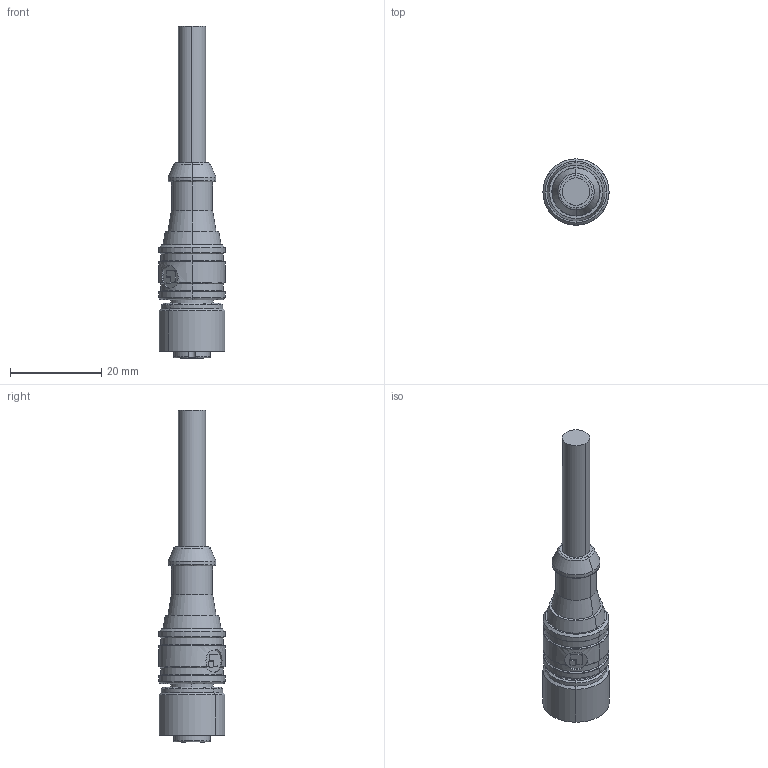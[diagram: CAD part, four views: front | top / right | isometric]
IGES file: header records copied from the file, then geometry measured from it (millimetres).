
Start section: Elysium IGES Interface
Global section: file name: C:\Data\JobServerData\JobServer Files\be7ddc84-3190-4a87-9461-6b0befd224e6\work\output\model.igs; native system: PTC Creo Elements/Direct Modeling 19.0B  21-Mar-2015; preprocessor: Creo Element/Direct IGES_3D V2.2; author: Unknown; organization: Unknown; date: 20180411.095820; units: millimetre
Bounding box: 14.5 x 14.5 x 72.8 mm (x, y, z)
Volume: 6216.6 mm3; surface area: 3664.3 mm2
Topology: 1 solids, 2 shells, 146 faces, 328 edges, 208 vertices
Faces by surface type: bspline 146
